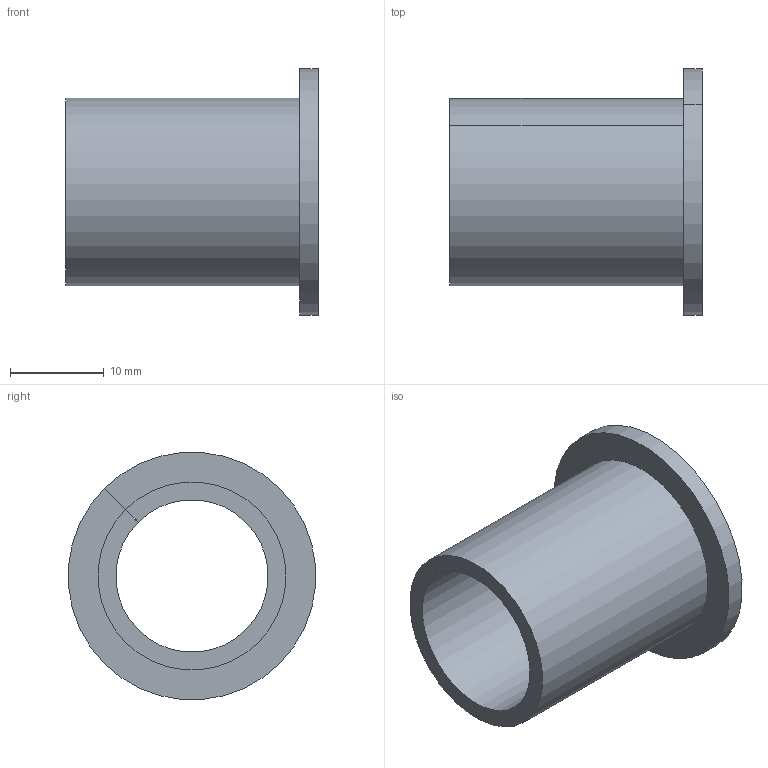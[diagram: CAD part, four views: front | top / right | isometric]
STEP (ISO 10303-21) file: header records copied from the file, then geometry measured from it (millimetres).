
FILE_DESCRIPTION(('Creo Elements/Direct Modeling STEP Export'),'2;1');
FILE_NAME('H17-0012-CL911-00_G28-20BRS.stp','2023-06-09T13:58:43',(''),(''),'Creo Elements/Direct Modeling STEP processor for AP214 (Solid Model)','Creo Elements/Direct Modeling 20.3B 05-Dec-2020 (C) Parametric Technology GmbH','');
FILE_SCHEMA(('AUTOMOTIVE_DESIGN { 1 0 10303 214 1 1 1 1 }'));
Length unit declared in the file: millimetre
Products named in the file (2): G28-20BRS
Assembly tree (1 placements, depth 2):
  G28-20BRS
    G28-20BRS
Bounding box: 27 x 26.4 x 26.4 mm (x, y, z)
Volume: 3401.1 mm3; surface area: 3928.3 mm2
Topology: 1 solids, 1 shells, 8 faces, 18 edges, 12 vertices
Faces by surface type: plane 5, cylinder 3
Full cylindrical faces by diameter (mm): 20.1 x1, 26.5 x1
Entity records: 273 total; most frequent: DIRECTION 44, CARTESIAN_POINT 40, ORIENTED_EDGE 36, EDGE_CURVE 18, AXIS2_PLACEMENT_3D 16, VECTOR 12, LINE 12, VERTEX_POINT 12
